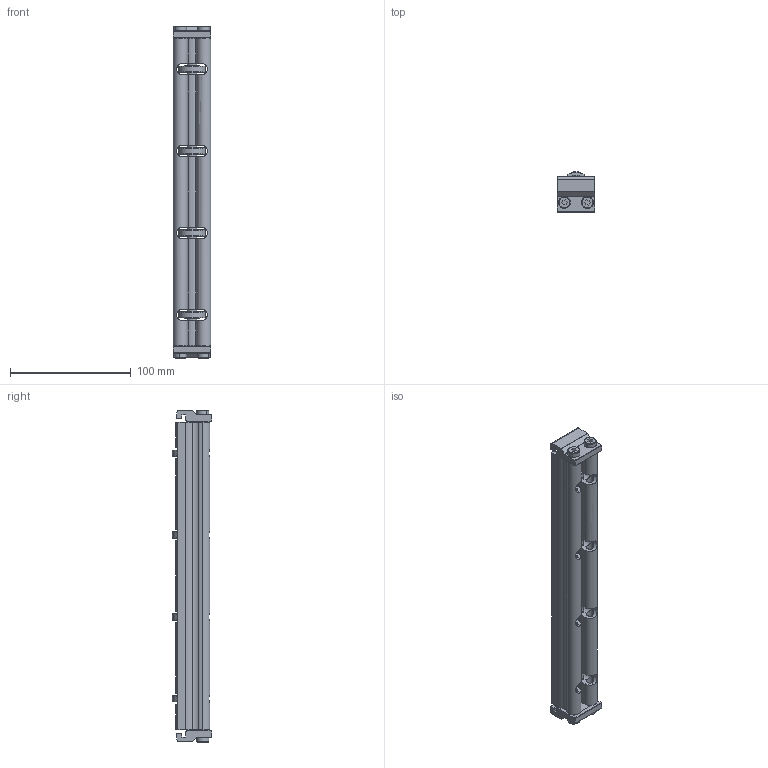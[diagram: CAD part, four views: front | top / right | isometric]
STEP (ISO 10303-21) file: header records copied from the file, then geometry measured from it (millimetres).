
FILE_DESCRIPTION((''),'2;1');
FILE_NAME('206523-10_ASM','2023-02-27T',('jenni.wallner'),(''),'PRO/ENGINEER BY PARAMETRIC TECHNOLOGY CORPORATION, 2012420','PRO/ENGINEER BY PARAMETRIC TECHNOLOGY CORPORATION, 2012420','');
FILE_SCHEMA(('CONFIG_CONTROL_DESIGN'));
Length unit declared in the file: inch
Products named in the file (7): 240826; 9506XXM_950616M; 205977_205978_205979_205978; 2410WW_241010; 2436WW_243610; ASM0001_ASM; 206523-10_ASM
Assembly tree (13 placements, depth 3):
  206523-10_ASM
    ASM0001_ASM
      240826  x4
      9506XXM_950616M  x4
      205977_205978_205979_205978  x2
      2410WW_241010
      2436WW_243610
Bounding box: 30.89 x 33.01 x 274.55 mm (x, y, z)
Volume: 132729.5 mm3; surface area: 81088.1 mm2
Topology: 12 solids, 12 shells, 366 faces, 994 edges, 652 vertices
Faces by surface type: cylinder 160, plane 138, cone 52, torus 16
Entity records: 8521 total; most frequent: CARTESIAN_POINT 2046, DIRECTION 1373, ORIENTED_EDGE 1346, EDGE_CURVE 673, AXIS2_PLACEMENT_3D 523, VERTEX_POINT 446, VECTOR 327, LINE 327
